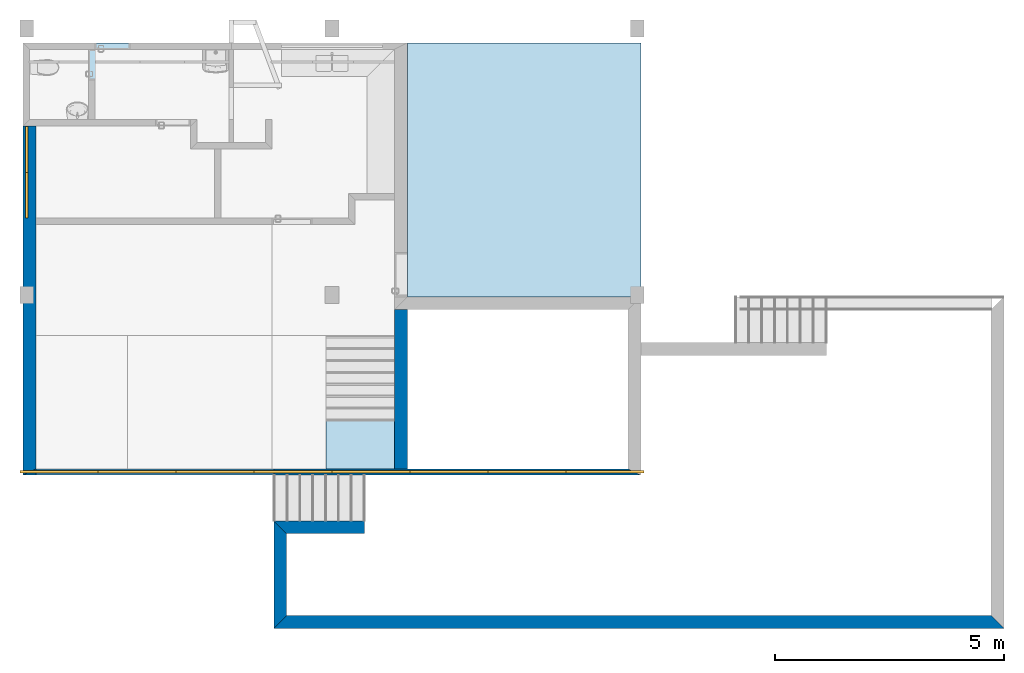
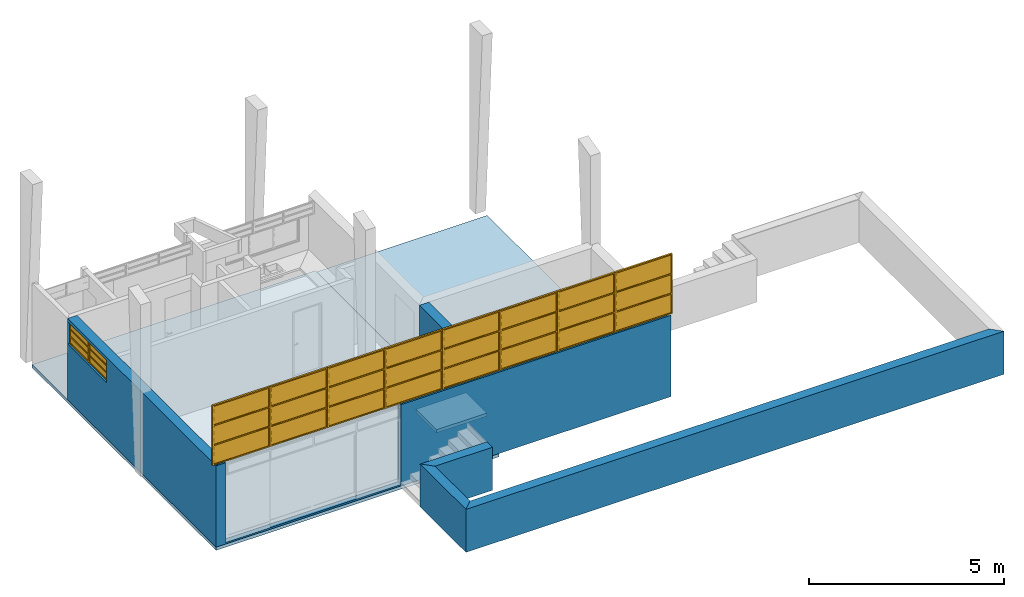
# One storey, part 1 of 16: 10 windows, 6 walls, 3 slabs, 12 openings, 1 element without a shape of its own.
"""IFC2X3 building model written with IfcOpenShell, lengths in millimetres."""

from ifc_helpers import new_model, entity, si_unit, converted_unit, derived_unit, money_unit, direction, frame, origin_with_axes, origin_2d_with_axis, place, context, subcontext, project, spatial, polyline, rectangle, outline, extrude, open_shell, faceted_brep, surface_model, source, transform, mapped, material, layer, layer_set, layer_usage, type_object, element, fill, aggregate, save


model = new_model("IFC2X3")

# Units and contexts
model_context = context("Model", 3, precision=0.01, world=origin_with_axes(), true_north=direction((0.293984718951, 0.955810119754)))
body_context = subcontext(model_context, "Body", "Model", "MODEL_VIEW")
ifc_project = project(units=[si_unit("LENGTHUNIT", "METRE", prefix="MILLI"), si_unit("AREAUNIT", "SQUARE_METRE"), si_unit("VOLUMEUNIT", "CUBIC_METRE"), converted_unit("PLANEANGLEUNIT", "DEGREE", entity("IfcPlaneAngleMeasure", 0.0174532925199), si_unit("PLANEANGLEUNIT", "RADIAN"), dimensions=[0, 0, 0, 0, 0, 0, 0]), si_unit("SOLIDANGLEUNIT", "STERADIAN"), money_unit("USD"), converted_unit("TIMEUNIT", "Year", entity("IfcTimeMeasure", 31556926.0), si_unit("TIMEUNIT", "SECOND"), dimensions=[0, 0, 1, 0, 0, 0, 0]), si_unit("MASSUNIT", "GRAM", prefix="KILO"), si_unit("THERMODYNAMICTEMPERATUREUNIT", "DEGREE_CELSIUS"), si_unit("LUMINOUSINTENSITYUNIT", "LUMEN"), si_unit("ENERGYUNIT", "JOULE", prefix="MEGA"), derived_unit("THERMALCONDUCTANCEUNIT", [(si_unit("POWERUNIT", "WATT"), 1), (si_unit("LENGTHUNIT", "METRE"), -1), (si_unit("THERMODYNAMICTEMPERATUREUNIT", "KELVIN"), -1)]), derived_unit("SPECIFICHEATCAPACITYUNIT", [(si_unit("ENERGYUNIT", "JOULE"), 1), (si_unit("MASSUNIT", "GRAM", prefix="KILO"), -1), (si_unit("THERMODYNAMICTEMPERATUREUNIT", "KELVIN"), -1)]), derived_unit("MASSDENSITYUNIT", [(si_unit("MASSUNIT", "GRAM", prefix="KILO"), 1), (si_unit("VOLUMEUNIT", "CUBIC_METRE"), -1)])], contexts=[model_context])

# Site, building, storey
site_placement = place(None, origin_with_axes())
site = spatial("IfcSite", under=ifc_project, at=site_placement, Name="Local", CompositionType="ELEMENT")
building_placement = place(site_placement, origin_with_axes())
building = spatial("IfcBuilding", under=site, at=building_placement, Name="Construção", CompositionType="ELEMENT")
storey_placement = place(building_placement, origin_with_axes())
storey = spatial("IfcBuildingStorey", under=building, at=storey_placement, Name="Pavimento Térreo", CompositionType="ELEMENT", Elevation=0.0)

# Slabs
ifc_material_1 = material(Name="Concreto Armado - Estrutural")
ifc_layer_1 = layer(ifc_material_1, 100.0, ventilated="UNKNOWN")
ifc_layer_set_1 = layer_set([ifc_layer_1], Name="Concreto Armado - Estrutural 100")
ifc_layer_usage_1 = layer_usage(ifc_layer_set_1, "AXIS3", "NEGATIVE", 100.0)
slab_type_1 = type_object("IfcSlabType", Name="Concreto Armado - Estrutural 100", PredefinedType="FLOOR")
slab_1_placement = place(storey_placement, frame((15479.6450727, 7250.63219788, 0.0), z_axis=(0.0, 0.0, 1.0), x_axis=(1.0, 0.0, 0.0)))
element("IfcSlab", 1, at=slab_1_placement, inside=storey, type_object=slab_type_1, material=ifc_layer_usage_1, Name="Laje-03", PredefinedType="FLOOR", context=body_context, shape_type="SweptSolid", body=[
    extrude(outline(polyline([(0.0, 0.0), (5100.0, 0.0), (5100.0, 5550.0), (0.0, 5550.0), (0.0, 0.0)])), frame((0.0, 0.0, -100.0), z_axis=(0.0, 0.0, 1.0), x_axis=(1.0, 0.0, 0.0)), (0.0, 0.0, 1.0), 100.0),
])
ifc_layer_usage_2 = layer_usage(ifc_layer_set_1, "AXIS3", "NEGATIVE", 100.0)
slab_2_placement = place(storey_placement, frame((7079.64507267, 3350.63219788, 50.0), z_axis=(0.0, 0.0, 1.0), x_axis=(1.0, 0.0, 0.0)))
element("IfcSlab", 2, at=slab_2_placement, inside=storey, type_object=slab_type_1, material=ifc_layer_usage_2, Name="Laje-04", PredefinedType="FLOOR", context=body_context, shape_type="SweptSolid", body=[
    extrude(outline(polyline([(0.0, 0.0), (8400.00000003, 0.0), (8400.00000003, 9450.00000002), (0.0, 9450.00000002), (0.0, 0.0)])), frame((0.0, 0.0, -100.0), z_axis=(0.0, 0.0, 1.0), x_axis=(1.0, 0.0, 0.0)), (0.0, 0.0, 1.0), 100.0),
])

# Stair, slab
stair_placement = place(storey_placement, frame((15199.6450727, 6400.63219788, 50.0), z_axis=(0.0, 0.0, 1.0), x_axis=(1.0, 0.0, 0.0)))
stair = element("IfcStair", 3, at=stair_placement, inside=storey, Name="Escada", ShapeType="NOTDEFINED")
slab_type_2 = type_object("IfcSlabType", Name="IfcSlab", PredefinedType="LANDING")
slab_3_placement = place(stair_placement, origin_with_axes())
slab_3 = element("IfcSlab", 4, at=slab_3_placement, type_object=slab_type_2, material=ifc_material_1, Name="Patamar - 010", PredefinedType="LANDING", context=body_context, shape_type="Brep", body=[
    faceted_brep([(0.0, -2910.0, 1180.0), (0.0, -1859.91424035, 1180.0), (0.0, -1840.47620944, 1280.0), (0.0, -2910.0, 1280.0), (-1500.0, -2910.0, 1180.0), (-1500.0, -1859.91424035, 1180.0), (-1500.0, -1840.47620944, 1280.0), (-1500.0, -2910.0, 1280.0)], [[[0, 1, 2, 3]], [[4, 5, 1, 0]], [[5, 6, 2, 1]], [[3, 2, 6, 7]], [[3, 7, 4, 0]], [[7, 6, 5, 4]]]),
])
aggregate(stair, [slab_3])

# Wall, openings, windows
ifc_material_2 = material(Name="Reboco (1)")
ifc_layer_2 = layer(ifc_material_2, 20.0, ventilated="UNKNOWN")
ifc_material_3 = material(Name="Tijolo - Estrutural (1)")
ifc_layer_3 = layer(ifc_material_3, 100.0, ventilated="UNKNOWN")
ifc_layer_4 = layer(ifc_material_2, 20.0, ventilated="UNKNOWN")
ifc_layer_set_2 = layer_set([ifc_layer_2, ifc_layer_3, ifc_layer_4], Name="Alvenaria Tijolo Maciço com Revestimento 14cm")
ifc_layer_usage_3 = layer_usage(ifc_layer_set_2, "AXIS2", "NEGATIVE", 0.0)
wall_type_1 = type_object("IfcWallType", Name="Alvenaria Tijolo Maciço com Revestimento 14cm 140", PredefinedType="NOTDEFINED")
wall_1_placement = place(storey_placement, frame((20579.6450727, 3350.63219788, 50.0), z_axis=(0.0, 0.0, 1.0), x_axis=(-1.0, 0.0, 0.0)))
wall_1 = element("IfcWallStandardCase", 5, at=wall_1_placement, inside=storey, type_object=wall_type_1, material=ifc_layer_usage_3, Name="Parede", context=body_context, shape_type="SweptSolid", body=[
    extrude(outline(polyline([(280.0, -140.0), (13220.0, -140.0), (13500.0, 0.0), (0.0, 0.0), (280.0, -140.0)])), origin_with_axes(), (0.0, 0.0, 1.0), 2550.0),
])
opening_1_placement = place(wall_1_placement, frame((780.000000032, 0.0, 2550.0), z_axis=(0.0, 0.0, 1.0), x_axis=(1.0, 0.0, 0.0)))
opening_1 = element("IfcOpeningElement", 6, at=opening_1_placement, cuts=wall_1, Name="J02", context=body_context, shape_type="SweptSolid", body=[
    extrude(rectangle(XDim=1700.0, YDim=1880.0, at=origin_2d_with_axis()), frame((0.0, -50.0, 940.0), z_axis=(0.0, -1.0, 0.0), x_axis=(1.0, 0.0, 0.0)), (0.0, 0.0, 1.0), 230.0),
    extrude(rectangle(XDim=1700.0, YDim=1880.0, at=origin_2d_with_axis()), frame((0.0, -50.0, 940.0), z_axis=(0.0, 1.0, 0.0), x_axis=(1.0, 0.0, 0.0)), (0.0, 0.0, 1.0), 190.0),
])
opening_2_placement = place(wall_1_placement, frame((2485.71428575, 0.0, 2550.0), z_axis=(0.0, 0.0, 1.0), x_axis=(1.0, 0.0, 0.0)))
opening_2 = element("IfcOpeningElement", 7, at=opening_2_placement, cuts=wall_1, Name="J02", context=body_context, shape_type="SweptSolid", body=[
    extrude(rectangle(XDim=1700.0, YDim=1880.0, at=origin_2d_with_axis()), frame((0.0, -50.0, 940.0), z_axis=(0.0, -1.0, 0.0), x_axis=(1.0, 0.0, 0.0)), (0.0, 0.0, 1.0), 230.0),
    extrude(rectangle(XDim=1700.0, YDim=1880.0, at=origin_2d_with_axis()), frame((0.0, -50.0, 940.0), z_axis=(0.0, 1.0, 0.0), x_axis=(1.0, 0.0, 0.0)), (0.0, 0.0, 1.0), 190.0),
])
opening_3_placement = place(wall_1_placement, frame((4191.42857146, 0.0, 2550.0), z_axis=(0.0, 0.0, 1.0), x_axis=(1.0, 0.0, 0.0)))
opening_3 = element("IfcOpeningElement", 8, at=opening_3_placement, cuts=wall_1, Name="J02", context=body_context, shape_type="SweptSolid", body=[
    extrude(rectangle(XDim=1700.0, YDim=1880.0, at=origin_2d_with_axis()), frame((0.0, -50.0, 940.0), z_axis=(0.0, -1.0, 0.0), x_axis=(1.0, 0.0, 0.0)), (0.0, 0.0, 1.0), 230.0),
    extrude(rectangle(XDim=1700.0, YDim=1880.0, at=origin_2d_with_axis()), frame((0.0, -50.0, 940.0), z_axis=(0.0, 1.0, 0.0), x_axis=(1.0, 0.0, 0.0)), (0.0, 0.0, 1.0), 190.0),
])
opening_4_placement = place(wall_1_placement, frame((5897.14285717, 0.0, 2550.0), z_axis=(0.0, 0.0, 1.0), x_axis=(1.0, 0.0, 0.0)))
opening_4 = element("IfcOpeningElement", 9, at=opening_4_placement, cuts=wall_1, Name="J02", context=body_context, shape_type="SweptSolid", body=[
    extrude(rectangle(XDim=1700.0, YDim=1880.0, at=origin_2d_with_axis()), frame((0.0, -50.0, 940.0), z_axis=(0.0, -1.0, 0.0), x_axis=(1.0, 0.0, 0.0)), (0.0, 0.0, 1.0), 230.0),
    extrude(rectangle(XDim=1700.0, YDim=1880.0, at=origin_2d_with_axis()), frame((0.0, -50.0, 940.0), z_axis=(0.0, 1.0, 0.0), x_axis=(1.0, 0.0, 0.0)), (0.0, 0.0, 1.0), 190.0),
])
opening_5_placement = place(wall_1_placement, frame((7602.85714289, 0.0, 2550.0), z_axis=(0.0, 0.0, 1.0), x_axis=(1.0, 0.0, 0.0)))
opening_5 = element("IfcOpeningElement", 10, at=opening_5_placement, cuts=wall_1, Name="J02", context=body_context, shape_type="SweptSolid", body=[
    extrude(rectangle(XDim=1700.0, YDim=1880.0, at=origin_2d_with_axis()), frame((0.0, -50.0, 940.0), z_axis=(0.0, -1.0, 0.0), x_axis=(1.0, 0.0, 0.0)), (0.0, 0.0, 1.0), 230.0),
    extrude(rectangle(XDim=1700.0, YDim=1880.0, at=origin_2d_with_axis()), frame((0.0, -50.0, 940.0), z_axis=(0.0, 1.0, 0.0), x_axis=(1.0, 0.0, 0.0)), (0.0, 0.0, 1.0), 190.0),
])
opening_6_placement = place(wall_1_placement, frame((9308.5714286, 0.0, 2550.0), z_axis=(0.0, 0.0, 1.0), x_axis=(1.0, 0.0, 0.0)))
opening_6 = element("IfcOpeningElement", 11, at=opening_6_placement, cuts=wall_1, Name="J02", context=body_context, shape_type="SweptSolid", body=[
    extrude(rectangle(XDim=1700.0, YDim=1880.0, at=origin_2d_with_axis()), frame((0.0, -50.0, 940.0), z_axis=(0.0, -1.0, 0.0), x_axis=(1.0, 0.0, 0.0)), (0.0, 0.0, 1.0), 230.0),
    extrude(rectangle(XDim=1700.0, YDim=1880.0, at=origin_2d_with_axis()), frame((0.0, -50.0, 940.0), z_axis=(0.0, 1.0, 0.0), x_axis=(1.0, 0.0, 0.0)), (0.0, 0.0, 1.0), 190.0),
])
opening_7_placement = place(wall_1_placement, frame((11014.2857143, 0.0, 2550.0), z_axis=(0.0, 0.0, 1.0), x_axis=(1.0, 0.0, 0.0)))
opening_7 = element("IfcOpeningElement", 12, at=opening_7_placement, cuts=wall_1, Name="J02", context=body_context, shape_type="SweptSolid", body=[
    extrude(rectangle(XDim=1700.0, YDim=1880.0, at=origin_2d_with_axis()), frame((0.0, -50.0, 940.0), z_axis=(0.0, -1.0, 0.0), x_axis=(1.0, 0.0, 0.0)), (0.0, 0.0, 1.0), 230.0),
    extrude(rectangle(XDim=1700.0, YDim=1880.0, at=origin_2d_with_axis()), frame((0.0, -50.0, 940.0), z_axis=(0.0, 1.0, 0.0), x_axis=(1.0, 0.0, 0.0)), (0.0, 0.0, 1.0), 190.0),
])
opening_8_placement = place(wall_1_placement, frame((12720.0, 0.0, 2550.0), z_axis=(0.0, 0.0, 1.0), x_axis=(1.0, 0.0, 0.0)))
opening_8 = element("IfcOpeningElement", 13, at=opening_8_placement, cuts=wall_1, Name="J02", context=body_context, shape_type="SweptSolid", body=[
    extrude(rectangle(XDim=1700.0, YDim=1880.0, at=origin_2d_with_axis()), frame((0.0, -50.0, 940.0), z_axis=(0.0, -1.0, 0.0), x_axis=(1.0, 0.0, 0.0)), (0.0, 0.0, 1.0), 230.0),
    extrude(rectangle(XDim=1700.0, YDim=1880.0, at=origin_2d_with_axis()), frame((0.0, -50.0, 940.0), z_axis=(0.0, 1.0, 0.0), x_axis=(1.0, 0.0, 0.0)), (0.0, 0.0, 1.0), 190.0),
])
opening_9_placement = place(wall_1_placement, frame((10620.0, 0.0, 50.0), z_axis=(0.0, 0.0, 1.0), x_axis=(1.0, 0.0, 0.0)))
element("IfcOpeningElement", 14, at=opening_9_placement, cuts=wall_1, Name="P06", context=body_context, shape_type="SweptSolid", body=[
    extrude(rectangle(XDim=5200.0, YDim=2500.0, at=origin_2d_with_axis()), frame((0.0, -140.0, 1250.0), z_axis=(0.0, 1.0, 0.0), x_axis=(1.0, 0.0, 0.0)), (0.0, 0.0, 1.0), 420.0),
])
window_style_1 = type_object("IfcWindowStyle", Name="Janela Multi-Caixilho Vertical 23", ConstructionType="NOTDEFINED", OperationType="TRIPLE_PANEL_HORIZONTAL", ParameterTakesPrecedence=False, Sizeable=False)
shared_shape_1 = source(origin_with_axes(), body_context, "Body", "SurfaceModel", [
    faceted_brep([(815.0, -50.0, 1845.0), (850.0, -50.0, 1845.0), (850.0, 0.0, 1845.0), (815.0, 0.0, 1845.0), (815.0, -50.0, 1265.0), (815.0, -50.0, 1230.0), (815.0, -50.0, 650.0), (815.0, -50.0, 615.0), (815.0, -50.0, 35.0), (850.0, -50.0, 35.0), (850.0, 0.0, 35.0), (815.0, 0.0, 35.0), (815.0, 0.0, 615.0), (815.0, 0.0, 650.0), (815.0, 0.0, 1230.0), (815.0, 0.0, 1265.0)], [[[0, 1, 2, 3]], [[0, 4, 5, 6, 7, 8, 9, 1]], [[1, 9, 10, 2]], [[3, 2, 10, 11, 12, 13, 14, 15]], [[4, 0, 3, 15]], [[5, 4, 15, 14]], [[6, 5, 14, 13]], [[7, 6, 13, 12]], [[8, 7, 12, 11]], [[9, 8, 11, 10]]]),
    faceted_brep([(-815.0, -50.0, 1265.0), (-815.0, -50.0, 1230.0), (-815.0, 0.0, 1230.0), (-815.0, 0.0, 1265.0), (-815.0, -50.0, 1845.0), (-850.0, -50.0, 1845.0), (-850.0, -50.0, 35.0), (-815.0, -50.0, 35.0), (-815.0, -50.0, 615.0), (-815.0, -50.0, 650.0), (-815.0, 0.0, 650.0), (-815.0, 0.0, 615.0), (-815.0, 0.0, 35.0), (-850.0, 0.0, 35.0), (-850.0, 0.0, 1845.0), (-815.0, 0.0, 1845.0)], [[[0, 1, 2, 3]], [[0, 4, 5, 6, 7, 8, 9, 1]], [[1, 9, 10, 2]], [[3, 2, 10, 11, 12, 13, 14, 15]], [[4, 0, 3, 15]], [[5, 4, 15, 14]], [[6, 5, 14, 13]], [[7, 6, 13, 12]], [[8, 7, 12, 11]], [[9, 8, 11, 10]]]),
    faceted_brep([(-815.0, -50.0, 1845.0), (-850.0, -50.0, 1845.0), (-850.0, 0.0, 1845.0), (-815.0, 0.0, 1845.0), (815.0, -50.0, 1845.0), (850.0, -50.0, 1845.0), (850.0, -50.0, 1880.0), (-850.0, -50.0, 1880.0), (-850.0, 0.0, 1880.0), (850.0, 0.0, 1880.0), (850.0, 0.0, 1845.0), (815.0, 0.0, 1845.0)], [[[0, 1, 2, 3]], [[0, 4, 5, 6, 7, 1]], [[1, 7, 8, 2]], [[3, 2, 8, 9, 10, 11]], [[4, 0, 3, 11]], [[5, 4, 11, 10]], [[6, 5, 10, 9]], [[7, 6, 9, 8]]]),
    faceted_brep([(815.0, -50.0, 35.0), (850.0, -50.0, 35.0), (850.0, 0.0, 35.0), (815.0, 0.0, 35.0), (-815.0, -50.0, 35.0), (-850.0, -50.0, 35.0), (-850.0, -50.0, 0.0), (850.0, -50.0, 0.0), (850.0, 0.0, 0.0), (-850.0, 0.0, 0.0), (-850.0, 0.0, 35.0), (-815.0, 0.0, 35.0)], [[[0, 1, 2, 3]], [[0, 4, 5, 6, 7, 1]], [[1, 7, 8, 2]], [[3, 2, 8, 9, 10, 11]], [[4, 0, 3, 11]], [[5, 4, 11, 10]], [[6, 5, 10, 9]], [[7, 6, 9, 8]]]),
    faceted_brep([(-815.0, -50.0, 650.0), (815.0, -50.0, 650.0), (815.0, 0.0, 650.0), (-815.0, 0.0, 650.0), (-815.0, -50.0, 615.0), (815.0, -50.0, 615.0), (815.0, 0.0, 615.0), (-815.0, 0.0, 615.0)], [[[0, 1, 2, 3]], [[0, 4, 5, 1]], [[1, 5, 6, 2]], [[3, 2, 6, 7]], [[4, 0, 3, 7]], [[5, 4, 7, 6]]]),
    faceted_brep([(-815.0, -50.0, 1265.0), (815.0, -50.0, 1265.0), (815.0, 0.0, 1265.0), (-815.0, 0.0, 1265.0), (-815.0, -50.0, 1230.0), (815.0, -50.0, 1230.0), (815.0, 0.0, 1230.0), (-815.0, 0.0, 1230.0)], [[[0, 1, 2, 3]], [[0, 4, 5, 1]], [[1, 5, 6, 2]], [[3, 2, 6, 7]], [[4, 0, 3, 7]], [[5, 4, 7, 6]]]),
    surface_model("IfcShellBasedSurfaceModel", [(815.0, -35.0, 35.0), (815.0, -35.0, 615.0), (-815.0, -35.0, 615.0), (-815.0, -35.0, 35.0)], [open_shell([[[0, 1, 2, 3]]])]),
    surface_model("IfcShellBasedSurfaceModel", [(815.0, -15.0, 35.0), (-815.0, -15.0, 35.0), (-815.0, -15.0, 615.0), (815.0, -15.0, 615.0)], [open_shell([[[0, 1, 2, 3]]])]),
    surface_model("IfcShellBasedSurfaceModel", [(815.0, -35.0, 650.0), (815.0, -35.0, 1230.0), (-815.0, -35.0, 1230.0), (-815.0, -35.0, 650.0)], [open_shell([[[0, 1, 2, 3]]])]),
    surface_model("IfcShellBasedSurfaceModel", [(815.0, -15.0, 650.0), (-815.0, -15.0, 650.0), (-815.0, -15.0, 1230.0), (815.0, -15.0, 1230.0)], [open_shell([[[0, 1, 2, 3]]])]),
    surface_model("IfcShellBasedSurfaceModel", [(815.0, -35.0, 1265.0), (815.0, -35.0, 1845.0), (-815.0, -35.0, 1845.0), (-815.0, -35.0, 1265.0)], [open_shell([[[0, 1, 2, 3]]])]),
    surface_model("IfcShellBasedSurfaceModel", [(815.0, -15.0, 1265.0), (-815.0, -15.0, 1265.0), (-815.0, -15.0, 1845.0), (815.0, -15.0, 1845.0)], [open_shell([[[0, 1, 2, 3]]])]),
])
window_1_placement = place(opening_1_placement, frame((850.0, 0.0, 0.0), z_axis=(0.0, 0.0, 1.0), x_axis=(-1.0, 0.0, 0.0)))
window_1 = element("IfcWindow", 15, at=window_1_placement, inside=storey, type_object=window_style_1, Name="J02", OverallHeight=1880.0, OverallWidth=1700.0, context=body_context, shape_type="MappedRepresentation", body=[
    mapped(shared_shape_1, transform((850.0, 100.0, 0.0))),
])
fill(opening_1, window_1)
window_2_placement = place(opening_2_placement, frame((850.0, 0.0, 0.0), z_axis=(0.0, 0.0, 1.0), x_axis=(-1.0, 0.0, 0.0)))
window_2 = element("IfcWindow", 16, at=window_2_placement, inside=storey, type_object=window_style_1, Name="J16", OverallHeight=1880.0, OverallWidth=1700.0, context=body_context, shape_type="MappedRepresentation", body=[
    mapped(shared_shape_1, transform((850.0, 100.0, 0.0))),
])
fill(opening_2, window_2)
window_3_placement = place(opening_3_placement, frame((850.0, 0.0, 0.0), z_axis=(0.0, 0.0, 1.0), x_axis=(-1.0, 0.0, 0.0)))
window_3 = element("IfcWindow", 17, at=window_3_placement, inside=storey, type_object=window_style_1, Name="J17", OverallHeight=1880.0, OverallWidth=1700.0, context=body_context, shape_type="MappedRepresentation", body=[
    mapped(shared_shape_1, transform((850.0, 100.0, 0.0))),
])
fill(opening_3, window_3)
window_4_placement = place(opening_4_placement, frame((850.0, 0.0, 0.0), z_axis=(0.0, 0.0, 1.0), x_axis=(-1.0, 0.0, 0.0)))
window_4 = element("IfcWindow", 18, at=window_4_placement, inside=storey, type_object=window_style_1, Name="J18", OverallHeight=1880.0, OverallWidth=1700.0, context=body_context, shape_type="MappedRepresentation", body=[
    mapped(shared_shape_1, transform((850.0, 100.0, 0.0))),
])
fill(opening_4, window_4)
window_5_placement = place(opening_5_placement, frame((850.0, 0.0, 0.0), z_axis=(0.0, 0.0, 1.0), x_axis=(-1.0, 0.0, 0.0)))
window_5 = element("IfcWindow", 19, at=window_5_placement, inside=storey, type_object=window_style_1, Name="J19", OverallHeight=1880.0, OverallWidth=1700.0, context=body_context, shape_type="MappedRepresentation", body=[
    mapped(shared_shape_1, transform((850.0, 100.0, 0.0))),
])
fill(opening_5, window_5)
window_6_placement = place(opening_6_placement, frame((850.0, 0.0, 0.0), z_axis=(0.0, 0.0, 1.0), x_axis=(-1.0, 0.0, 0.0)))
window_6 = element("IfcWindow", 20, at=window_6_placement, inside=storey, type_object=window_style_1, Name="J20", OverallHeight=1880.0, OverallWidth=1700.0, context=body_context, shape_type="MappedRepresentation", body=[
    mapped(shared_shape_1, transform((850.0, 100.0, 0.0))),
])
fill(opening_6, window_6)
window_7_placement = place(opening_7_placement, frame((850.0, 0.0, 0.0), z_axis=(0.0, 0.0, 1.0), x_axis=(-1.0, 0.0, 0.0)))
window_7 = element("IfcWindow", 21, at=window_7_placement, inside=storey, type_object=window_style_1, Name="J21", OverallHeight=1880.0, OverallWidth=1700.0, context=body_context, shape_type="MappedRepresentation", body=[
    mapped(shared_shape_1, transform((850.0, 100.0, 0.0))),
])
fill(opening_7, window_7)
window_8_placement = place(opening_8_placement, frame((850.0, 0.0, 0.0), z_axis=(0.0, 0.0, 1.0), x_axis=(-1.0, 0.0, 0.0)))
window_8 = element("IfcWindow", 22, at=window_8_placement, inside=storey, type_object=window_style_1, Name="J22", OverallHeight=1880.0, OverallWidth=1700.0, context=body_context, shape_type="MappedRepresentation", body=[
    mapped(shared_shape_1, transform((850.0, 100.0, 0.0))),
])
fill(opening_8, window_8)

ifc_material_4 = material(Name="Reboco")
ifc_layer_5 = layer(ifc_material_4, 20.0, ventilated="UNKNOWN")
ifc_material_5 = material(Name="Tijolo - Estrutural")
ifc_layer_6 = layer(ifc_material_5, 240.0, ventilated="UNKNOWN")
ifc_layer_7 = layer(ifc_material_4, 20.0, ventilated="UNKNOWN")
ifc_layer_set_3 = layer_set([ifc_layer_5, ifc_layer_6, ifc_layer_7], Name="Alvenaria Tijolo Maciço com Revestimento 28cm")
ifc_layer_usage_4 = layer_usage(ifc_layer_set_3, "AXIS2", "NEGATIVE", 0.0)
wall_type_2 = type_object("IfcWallType", Name="Alvenaria Tijolo Maciço com Revestimento 28cm 280", PredefinedType="NOTDEFINED")
wall_2_placement = place(storey_placement, frame((7079.64507267, 3350.63219788, 50.0), z_axis=(0.0, 0.0, 1.0), x_axis=(0.0, 1.0, 0.0)))
wall_2 = element("IfcWallStandardCase", 23, at=wall_2_placement, inside=storey, type_object=wall_type_2, material=ifc_layer_usage_4, Name="Parede", context=body_context, shape_type="SweptSolid", body=[
    extrude(outline(polyline([(140.0, -280.0), (7630.00000002, -280.0), (7630.00000002, 0.0), (0.0, 0.0), (140.0, -280.0)])), origin_with_axes(), (0.0, 0.0, 1.0), 2550.0),
])
opening_10_placement = place(wall_2_placement, frame((6120.00000002, 0.0, 1750.0), z_axis=(0.0, 0.0, 1.0), x_axis=(1.0, 0.0, 0.0)))
opening_10 = element("IfcOpeningElement", 24, at=opening_10_placement, cuts=wall_2, Name="J06", context=body_context, shape_type="SweptSolid", body=[
    extrude(rectangle(XDim=1000.0, YDim=700.0, at=origin_2d_with_axis()), frame((0.0, -50.0, 350.0), z_axis=(0.0, -1.0, 0.0), x_axis=(-1.0, 0.0, 0.0)), (0.0, 0.0, 1.0), 510.0),
    extrude(rectangle(XDim=1000.0, YDim=700.0, at=origin_2d_with_axis()), frame((0.0, -50.0, 350.0), z_axis=(0.0, 1.0, 0.0), x_axis=(-1.0, 0.0, 0.0)), (0.0, 0.0, 1.0), 330.0),
])
opening_11_placement = place(wall_2_placement, frame((7120.00000002, 0.0, 1750.0), z_axis=(0.0, 0.0, 1.0), x_axis=(1.0, 0.0, 0.0)))
opening_11 = element("IfcOpeningElement", 25, at=opening_11_placement, cuts=wall_2, Name="J06", context=body_context, shape_type="SweptSolid", body=[
    extrude(rectangle(XDim=1000.0, YDim=700.0, at=origin_2d_with_axis()), frame((0.0, -50.0, 350.0), z_axis=(0.0, -1.0, 0.0), x_axis=(-1.0, 0.0, 0.0)), (0.0, 0.0, 1.0), 510.0),
    extrude(rectangle(XDim=1000.0, YDim=700.0, at=origin_2d_with_axis()), frame((0.0, -50.0, 350.0), z_axis=(0.0, 1.0, 0.0), x_axis=(-1.0, 0.0, 0.0)), (0.0, 0.0, 1.0), 330.0),
])
window_style_2 = type_object("IfcWindowStyle", Name="Janela Multi-Caixilho Vertical 23", ConstructionType="NOTDEFINED", OperationType="TRIPLE_PANEL_HORIZONTAL", ParameterTakesPrecedence=False, Sizeable=False)
shared_shape_2 = source(origin_with_axes(), body_context, "Body", "SurfaceModel", [
    faceted_brep([(465.0, -50.0, 665.0), (500.0, -50.0, 665.0), (500.0, 0.0, 665.0), (465.0, 0.0, 665.0), (465.0, -50.0, 478.333333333), (465.0, -50.0, 443.333333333), (465.0, -50.0, 256.666666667), (465.0, -50.0, 221.666666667), (465.0, -50.0, 35.0), (500.0, -50.0, 35.0), (500.0, 0.0, 35.0), (465.0, 0.0, 35.0), (465.0, 0.0, 221.666666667), (465.0, 0.0, 256.666666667), (465.0, 0.0, 443.333333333), (465.0, 0.0, 478.333333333)], [[[0, 1, 2, 3]], [[0, 4, 5, 6, 7, 8, 9, 1]], [[1, 9, 10, 2]], [[3, 2, 10, 11, 12, 13, 14, 15]], [[4, 0, 3, 15]], [[5, 4, 15, 14]], [[6, 5, 14, 13]], [[7, 6, 13, 12]], [[8, 7, 12, 11]], [[9, 8, 11, 10]]]),
    faceted_brep([(-465.0, -50.0, 478.333333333), (-465.0, -50.0, 443.333333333), (-465.0, 0.0, 443.333333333), (-465.0, 0.0, 478.333333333), (-465.0, -50.0, 665.0), (-500.0, -50.0, 665.0), (-500.0, -50.0, 35.0), (-465.0, -50.0, 35.0), (-465.0, -50.0, 221.666666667), (-465.0, -50.0, 256.666666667), (-465.0, 0.0, 256.666666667), (-465.0, 0.0, 221.666666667), (-465.0, 0.0, 35.0), (-500.0, 0.0, 35.0), (-500.0, 0.0, 665.0), (-465.0, 0.0, 665.0)], [[[0, 1, 2, 3]], [[0, 4, 5, 6, 7, 8, 9, 1]], [[1, 9, 10, 2]], [[3, 2, 10, 11, 12, 13, 14, 15]], [[4, 0, 3, 15]], [[5, 4, 15, 14]], [[6, 5, 14, 13]], [[7, 6, 13, 12]], [[8, 7, 12, 11]], [[9, 8, 11, 10]]]),
    faceted_brep([(-465.0, -50.0, 665.0), (-500.0, -50.0, 665.0), (-500.0, 0.0, 665.0), (-465.0, 0.0, 665.0), (465.0, -50.0, 665.0), (500.0, -50.0, 665.0), (500.0, -50.0, 700.0), (-500.0, -50.0, 700.0), (-500.0, 0.0, 700.0), (500.0, 0.0, 700.0), (500.0, 0.0, 665.0), (465.0, 0.0, 665.0)], [[[0, 1, 2, 3]], [[0, 4, 5, 6, 7, 1]], [[1, 7, 8, 2]], [[3, 2, 8, 9, 10, 11]], [[4, 0, 3, 11]], [[5, 4, 11, 10]], [[6, 5, 10, 9]], [[7, 6, 9, 8]]]),
    faceted_brep([(465.0, -50.0, 35.0), (500.0, -50.0, 35.0), (500.0, 0.0, 35.0), (465.0, 0.0, 35.0), (-465.0, -50.0, 35.0), (-500.0, -50.0, 35.0), (-500.0, -50.0, 0.0), (500.0, -50.0, 0.0), (500.0, 0.0, 0.0), (-500.0, 0.0, 0.0), (-500.0, 0.0, 35.0), (-465.0, 0.0, 35.0)], [[[0, 1, 2, 3]], [[0, 4, 5, 6, 7, 1]], [[1, 7, 8, 2]], [[3, 2, 8, 9, 10, 11]], [[4, 0, 3, 11]], [[5, 4, 11, 10]], [[6, 5, 10, 9]], [[7, 6, 9, 8]]]),
    faceted_brep([(-465.0, -50.0, 256.666666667), (465.0, -50.0, 256.666666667), (465.0, 0.0, 256.666666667), (-465.0, 0.0, 256.666666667), (-465.0, -50.0, 221.666666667), (465.0, -50.0, 221.666666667), (465.0, 0.0, 221.666666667), (-465.0, 0.0, 221.666666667)], [[[0, 1, 2, 3]], [[0, 4, 5, 1]], [[1, 5, 6, 2]], [[3, 2, 6, 7]], [[4, 0, 3, 7]], [[5, 4, 7, 6]]]),
    faceted_brep([(-465.0, -50.0, 478.333333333), (465.0, -50.0, 478.333333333), (465.0, 0.0, 478.333333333), (-465.0, 0.0, 478.333333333), (-465.0, -50.0, 443.333333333), (465.0, -50.0, 443.333333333), (465.0, 0.0, 443.333333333), (-465.0, 0.0, 443.333333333)], [[[0, 1, 2, 3]], [[0, 4, 5, 1]], [[1, 5, 6, 2]], [[3, 2, 6, 7]], [[4, 0, 3, 7]], [[5, 4, 7, 6]]]),
    surface_model("IfcShellBasedSurfaceModel", [(465.0, -35.0, 35.0), (465.0, -35.0, 221.666666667), (-465.0, -35.0, 221.666666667), (-465.0, -35.0, 35.0)], [open_shell([[[0, 1, 2, 3]]])]),
    surface_model("IfcShellBasedSurfaceModel", [(465.0, -15.0, 35.0), (-465.0, -15.0, 35.0), (-465.0, -15.0, 221.666666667), (465.0, -15.0, 221.666666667)], [open_shell([[[0, 1, 2, 3]]])]),
    surface_model("IfcShellBasedSurfaceModel", [(465.0, -35.0, 256.666666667), (465.0, -35.0, 443.333333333), (-465.0, -35.0, 443.333333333), (-465.0, -35.0, 256.666666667)], [open_shell([[[0, 1, 2, 3]]])]),
    surface_model("IfcShellBasedSurfaceModel", [(465.0, -15.0, 256.666666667), (-465.0, -15.0, 256.666666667), (-465.0, -15.0, 443.333333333), (465.0, -15.0, 443.333333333)], [open_shell([[[0, 1, 2, 3]]])]),
    surface_model("IfcShellBasedSurfaceModel", [(465.0, -35.0, 478.333333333), (465.0, -35.0, 665.0), (-465.0, -35.0, 665.0), (-465.0, -35.0, 478.333333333)], [open_shell([[[0, 1, 2, 3]]])]),
    surface_model("IfcShellBasedSurfaceModel", [(465.0, -15.0, 478.333333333), (-465.0, -15.0, 478.333333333), (-465.0, -15.0, 665.0), (465.0, -15.0, 665.0)], [open_shell([[[0, 1, 2, 3]]])]),
])
window_9_placement = place(opening_10_placement, frame((-500.0, 0.0, 0.0), z_axis=(0.0, 0.0, 1.0), x_axis=(1.0, 0.0, 0.0)))
window_9 = element("IfcWindow", 26, at=window_9_placement, inside=storey, type_object=window_style_2, Name="J06", OverallHeight=700.0, OverallWidth=1000.0, context=body_context, shape_type="MappedRepresentation", body=[
    mapped(shared_shape_2, transform((500.0, -50.0, 0.0))),
])
fill(opening_10, window_9)
window_10_placement = place(opening_11_placement, frame((-500.0, 0.0, 0.0), z_axis=(0.0, 0.0, 1.0), x_axis=(1.0, 0.0, 0.0)))
window_10 = element("IfcWindow", 27, at=window_10_placement, inside=storey, type_object=window_style_2, Name="J14", OverallHeight=700.0, OverallWidth=1000.0, context=body_context, shape_type="MappedRepresentation", body=[
    mapped(shared_shape_2, transform((500.0, -50.0, 0.0))),
])
fill(opening_11, window_10)

# Wall, opening
ifc_layer_usage_5 = layer_usage(ifc_layer_set_3, "AXIS2", "POSITIVE", -280.0)
wall_3_placement = place(storey_placement, frame((15479.6450727, 7250.63219788, 50.0), z_axis=(0.0, 0.0, 1.0), x_axis=(0.0, -1.0, 0.0)))
wall_3 = element("IfcWallStandardCase", 28, at=wall_3_placement, inside=storey, type_object=wall_type_2, material=ifc_layer_usage_5, Name="Parede", context=body_context, shape_type="SweptSolid", body=[
    extrude(outline(polyline([(280.0, -280.0), (3760.0, -280.0), (3760.0, 0.0), (280.0, 0.0), (280.0, -280.0)])), origin_with_axes(), (0.0, 0.0, 1.0), 2550.0),
])
opening_12_placement = place(wall_3_placement, frame((3260.0, 0.0, 1300.0), z_axis=(0.0, 0.0, 1.0), x_axis=(1.0, 0.0, 0.0)))
element("IfcOpeningElement", 29, at=opening_12_placement, cuts=wall_3, Name="Vão", context=body_context, shape_type="SweptSolid", body=[
    extrude(rectangle(XDim=1000.0, YDim=1300.0, at=origin_2d_with_axis()), frame((0.0, -280.0, 650.0), z_axis=(0.0, 1.0, 0.0), x_axis=(1.0, 0.0, 0.0)), (0.0, 0.0, -1.0), 280.0),
    extrude(rectangle(XDim=1000.0, YDim=1300.0, at=origin_2d_with_axis()), frame((0.0, -280.0, 650.0), z_axis=(0.0, -1.0, 0.0), x_axis=(1.0, 0.0, 0.0)), (0.0, 0.0, -1.0), 280.0),
])

# Walls
ifc_layer_usage_6 = layer_usage(ifc_layer_set_3, "AXIS2", "POSITIVE", 0.0)
wall_4_placement = place(storey_placement, frame((14542.5562221, 2350.63219788, 0.0), z_axis=(0.0, 0.0, 1.0), x_axis=(-1.0, 0.0, 0.0)))
element("IfcWallStandardCase", 30, at=wall_4_placement, inside=storey, type_object=wall_type_2, material=ifc_layer_usage_6, Name="Parede", context=body_context, shape_type="SweptSolid", body=[
    extrude(outline(polyline([(0.0, 0.0), (1982.91114938, 0.0), (1702.91114938, 280.0), (0.0, 280.0), (0.0, 0.0)])), origin_with_axes(), (0.0, 0.0, 1.0), 1350.0),
])
ifc_layer_usage_7 = layer_usage(ifc_layer_set_3, "AXIS2", "POSITIVE", 0.0)
wall_5_placement = place(storey_placement, frame((12559.6450727, 2350.63219788, 0.0), z_axis=(0.0, 0.0, 1.0), x_axis=(0.0, -1.0, 0.0)))
element("IfcWallStandardCase", 31, at=wall_5_placement, inside=storey, type_object=wall_type_2, material=ifc_layer_usage_7, Name="Parede", context=body_context, shape_type="SweptSolid", body=[
    extrude(outline(polyline([(0.0, 0.0), (2350.63219788, 0.0), (2070.63219788, 280.0), (280.0, 280.0), (0.0, 0.0)])), origin_with_axes(), (0.0, 0.0, 1.0), 1350.0),
])
ifc_layer_usage_8 = layer_usage(ifc_layer_set_3, "AXIS2", "POSITIVE", 0.0)
wall_6_placement = place(storey_placement, frame((12559.6450727, 0.0, 0.0), z_axis=(0.0, 0.0, 1.0), x_axis=(1.0, 0.0, 0.0)))
element("IfcWallStandardCase", 32, at=wall_6_placement, inside=storey, type_object=wall_type_2, material=ifc_layer_usage_8, Name="Parede", context=body_context, shape_type="SweptSolid", body=[
    extrude(outline(polyline([(0.0, 0.0), (15960.0, 0.0), (15680.0, 280.0), (280.0, 280.0), (0.0, 0.0)])), origin_with_axes(), (0.0, 0.0, 1.0), 1350.0),
])

save(model, "model.ifc")
